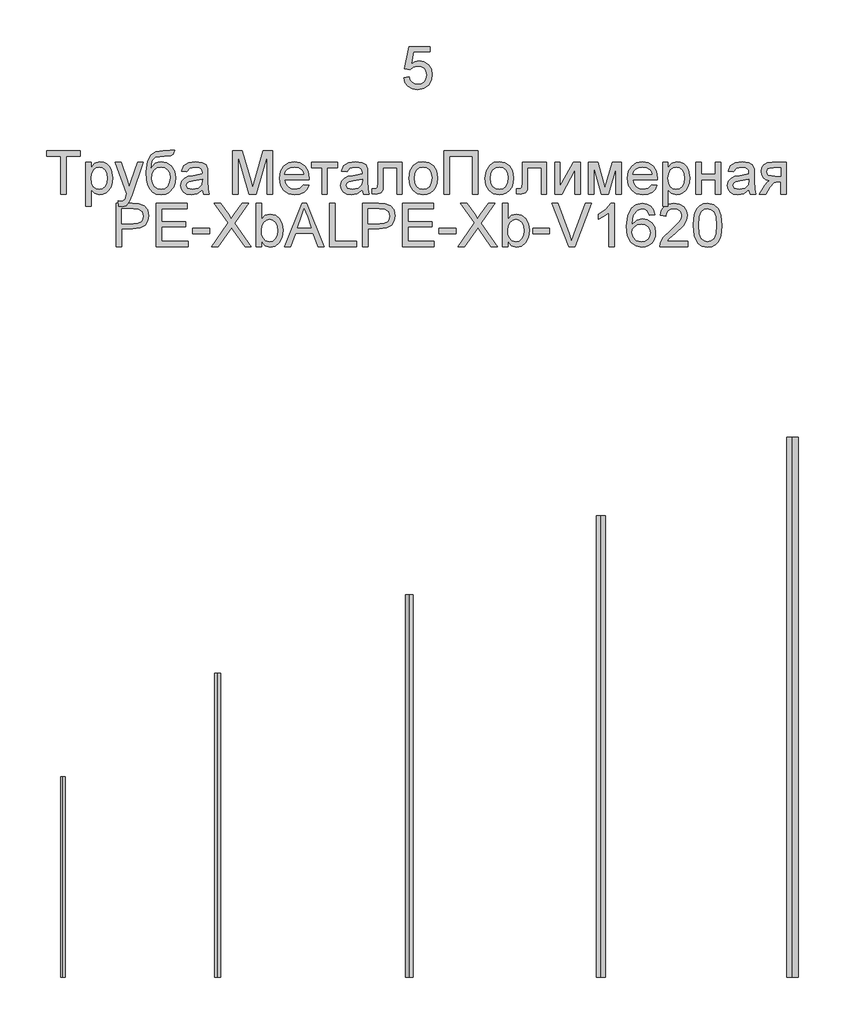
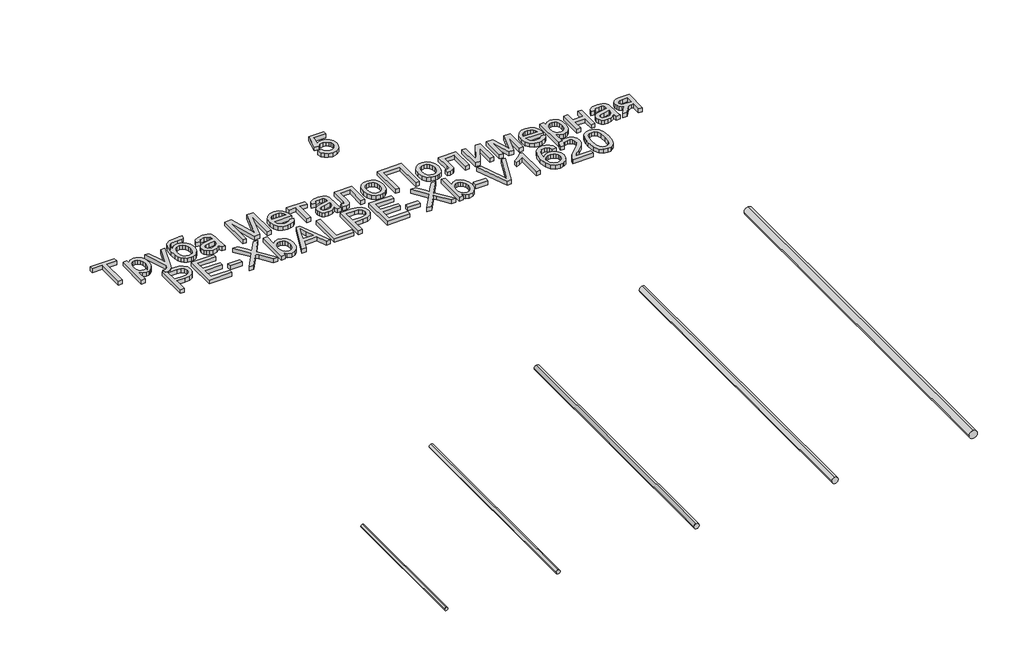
# One storey: 5 pipe segments, 1 proxy.
"""IFC4 building model written with IfcOpenShell, lengths in millimetres."""

from ifc_helpers import new_model, si_unit, point, frame, frame_2d, origin, origin_with_axes, place, context, project, spatial, polyline, circle_curve, trimmed, segment, composite_curve, outline, extrude, element, save

model = new_model("IFC4")

# Units and contexts
model_context = context("Model", 3, world=origin())
ifc_project = project(units=[si_unit("LENGTHUNIT", "METRE", prefix="MILLI")], contexts=[model_context])

# Site, building, storey
site = spatial("IfcSite", under=ifc_project)
building = spatial("IfcBuilding", under=site)
storey = spatial("IfcBuildingStorey", under=building, Name="Этаж 01", Elevation=0.0)

# Proxy
placement = place(None, origin())
element("IfcBuildingElementProxy", 1, Name="-", ObjectType="-", at=placement, inside=storey, context=model_context, shape_type="SweptSolid", body=[
    extrude(outline(polyline([(1130.7345209, 3137.5586063), (1149.570079, 3139.9130511), (1153.0281698, 3128.6052783), (1159.0614345, 3120.5072758), (1167.642282, 3115.6374379), (1178.7431212, 3114.0141586), (1192.2443905, 3116.2720344), (1202.3611453, 3123.0456616), (1208.6795186, 3133.5532911), (1210.785643, 3147.0131736), (1208.8128758, 3159.6867083), (1202.8945742, 3169.3803989), (1192.984753, 3175.5332253), (1179.0374268, 3177.5841674), (1162.5011311, 3174.3100176), (1151.9245238, 3165.8119436), (1133.0889656, 3168.1663883), (1149.570079, 3245.8630657), (1222.5578669, 3245.8630657), (1222.5578669, 3227.0275076), (1164.8003936, 3227.0275076), (1156.7437779, 3185.5304185), (1170.1990619, 3193.6973988), (1184.2981394, 3196.4197256), (1201.8966943, 3193.0444082), (1216.506208, 3182.9184563), (1226.3424529, 3167.4858066), (1229.6212012, 3148.190396), (1226.6689482, 3129.3548378), (1217.8121891, 3113.2416064), (1200.8528291, 3099.694352), (1178.6695448, 3095.1786005), (1160.169679, 3098.0802697), (1145.4314066, 3106.7852774), (1135.3284473, 3120.2819481), (1130.7345209, 3137.5586063)])), origin_with_axes(), (0.0, 0.0, 1.0), 20.0),
    extrude(outline(polyline([(-66.5006442, 2731.6085917), (-66.5006442, 2863.4574988), (-115.9439844, 2863.4574988), (-115.9439844, 2882.2930569), (1.7782541, 2882.2930569), (1.7782541, 2863.4574988), (-47.6650861, 2863.4574988), (-47.6650861, 2731.6085917), (-66.5006442, 2731.6085917)])), origin_with_axes(), (0.0, 0.0, 1.0), 20.0),
    extrude(outline(polyline([(20.6138122, 2689.2285859), (20.6138122, 2842.2674959), (39.4493704, 2842.2674959), (39.4493704, 2823.7998197), (52.472393, 2839.4164104), (70.0571524, 2844.6219406), (82.7950665, 2842.8009248), (93.9326939, 2837.3378771), (103.000985, 2828.5638915), (109.5308904, 2816.8100618), (114.791603, 2787.7841724), (113.3062794, 2771.6755395), (108.8503088, 2757.2683609), (101.5662453, 2745.2938019), (91.5966432, 2736.4830281), (79.9853677, 2731.0613672), (67.776284, 2729.2541469), (51.3871411, 2734.0917952), (39.4493704, 2746.3238715), (39.4493704, 2689.2285859), (20.6138122, 2689.2285859)]), holes=[polyline([(39.4493704, 2786.055127), (41.4865169, 2769.1693434), (47.5979566, 2757.3603314), (56.615664, 2750.4073617), (67.3716138, 2748.0897051), (78.3023076, 2750.4901351), (87.5499412, 2757.6914252), (93.8545189, 2769.9326986), (95.9560448, 2787.4530786), (93.9051027, 2804.2468917), (87.7522763, 2816.2214506), (78.7483645, 2823.3951495), (68.144166, 2825.7863825), (57.4985808, 2823.2433982), (48.1497796, 2815.6144453), (41.6244727, 2803.1386471), (39.4493704, 2786.055127)])]), origin_with_axes(), (0.0, 0.0, 1.0), 20.0),
    extrude(outline(polyline([(135.9816059, 2689.2285859), (133.6271611, 2707.3651682), (143.192093, 2705.7096993), (152.1316255, 2707.7882325), (157.6130672, 2713.5823739), (162.7634152, 2727.4515252), (164.2349431, 2732.0132619), (124.2093821, 2842.2674959), (144.0750098, 2842.2674959), (165.3018009, 2780.8312027), (172.696229, 2756.2566854), (180.0906571, 2777.9617231), (201.9060594, 2842.2674959), (221.6245344, 2842.2674959), (183.1072895, 2728.9598413), (173.1008992, 2704.3853241), (162.174804, 2691.104784), (147.4963124, 2686.8741411), (135.9816059, 2689.2285859)])), origin_with_axes(), (0.0, 0.0, 1.0), 20.0),
    extrude(outline(polyline([(314.9194084, 2884.6475017), (331.4005217, 2884.6475017), (326.5444794, 2869.950616), (316.9427593, 2864.6347212), (293.8765582, 2863.4574988), (262.8089237, 2859.1164912), (255.6812101, 2853.4695026), (250.8895471, 2845.2105518), (246.8612392, 2820.5992463), (263.1768057, 2838.6254641), (273.095824, 2843.1228215), (284.2012618, 2844.6219406), (303.8001751, 2840.8097635), (319.7018743, 2829.3732319), (330.2416935, 2811.4343861), (333.7549665, 2788.1152662), (332.0121256, 2770.1350337), (326.7836027, 2755.7048624), (310.247307, 2736.1519344), (298.9533298, 2730.9785938), (284.2012618, 2729.2541469), (267.2005151, 2731.4752345), (254.4580024, 2738.1384971), (245.0816101, 2748.264449), (238.1792242, 2760.8736044), (233.9301871, 2779.8609139), (232.5138414, 2809.1213281), (236.0868953, 2845.2611356), (246.806057, 2867.3018656), (264.9380408, 2878.5452591), (290.7495613, 2882.2930569), (311.718835, 2882.7161212), (314.9194084, 2884.6475017)]), holes=[polyline([(314.9194084, 2788.7038774), (312.8776633, 2803.5249232), (306.7524281, 2815.3937161), (296.9115847, 2823.1882159), (283.7230152, 2825.7863825), (269.9734256, 2823.0410631), (259.7738973, 2814.8051049), (253.455524, 2801.9798189), (251.3493996, 2785.4665158), (253.6762532, 2769.4590505), (260.6568141, 2757.7098193), (271.0494804, 2750.4947336), (283.6126506, 2748.0897051), (296.2402001, 2750.8718127), (306.2373933, 2759.2181355), (312.7489046, 2772.1537861), (314.9194084, 2788.7038774)])]), origin_with_axes(), (0.0, 0.0, 1.0), 20.0),
    extrude(outline(polyline([(427.9327573, 2745.7352603), (409.6674162, 2732.9697551), (389.4890888, 2729.2541469), (373.7483379, 2731.4890301), (362.1370624, 2738.1936794), (354.9771591, 2748.3748136), (352.5905247, 2761.0391513), (356.1957682, 2775.9383721), (365.6687296, 2786.7541028), (378.8572991, 2792.9345203), (395.1544715, 2795.7672117), (427.8223927, 2802.2419348), (427.9327573, 2806.4357895), (426.6359732, 2814.8418931), (422.7456211, 2820.3417289), (414.045212, 2824.4252191), (401.9235002, 2825.7863825), (382.8672129, 2822.1627448), (373.7805276, 2809.3052691), (354.9449694, 2811.6597139), (363.0935556, 2830.0538136), (379.5010926, 2840.8327561), (404.3515214, 2844.6219406), (427.1785992, 2841.2742145), (440.0728631, 2832.8681109), (445.8486104, 2820.0842116), (446.7683154, 2803.6030982), (446.7683154, 2780.1690151), (447.7248086, 2747.4459116), (451.477205, 2731.6085917), (432.6416468, 2731.6085917), (427.9327573, 2745.7352603)]), holes=[polyline([(427.9327573, 2783.4063766), (397.5457045, 2777.6306293), (381.3405026, 2774.5772087), (374.0012568, 2769.6108018), (371.4260828, 2762.3635265), (377.0362832, 2752.1731952), (393.4990025, 2748.0897051), (412.5552899, 2752.5962595), (424.8425485, 2763.5039607), (427.8223927, 2778.0720877), (427.9327573, 2783.4063766)])]), origin_with_axes(), (0.0, 0.0, 1.0), 20.0),
    extrude(outline(polyline([(533.8827719, 2731.6085917), (533.8827719, 2882.2930569), (566.2931757, 2882.2930569), (597.1216869, 2776.0855249), (603.3388926, 2753.9022406), (610.0711331, 2777.9249349), (640.3846095, 2882.2930569), (672.7950133, 2882.2930569), (672.7950133, 2731.6085917), (653.9594551, 2731.6085917), (653.9594551, 2863.4574988), (616.1043978, 2731.6085917), (590.5733873, 2731.6085917), (552.71833, 2863.4574988), (552.71833, 2731.6085917), (533.8827719, 2731.6085917)])), origin_with_axes(), (0.0, 0.0, 1.0), 20.0),
    extrude(outline(polyline([(780.8787434, 2764.5708185), (799.3464196, 2762.2163737), (792.692354, 2748.3012372), (782.0743599, 2737.8993738), (767.7315606, 2731.4154537), (749.9030795, 2729.2541469), (727.8025686, 2732.9835507), (710.7972234, 2744.1717618), (699.9539016, 2762.0922135), (696.339461, 2786.0183388), (699.9906898, 2810.7492059), (710.9443762, 2829.2444732), (727.7197951, 2840.7775738), (748.8362217, 2844.6219406), (769.2950591, 2840.7867708), (785.6428153, 2829.2812614), (796.3619769, 2810.8227823), (799.9350308, 2786.1287034), (799.8246662, 2781.0519319), (715.1750191, 2781.0519319), (718.4353733, 2766.9528544), (726.0091439, 2756.5877792), (736.9398376, 2750.2142236), (750.2709614, 2748.0897051), (768.7386376, 2752.0260424), (780.8787434, 2764.5708185)]), holes=[polyline([(715.1750191, 2799.88749), (781.0994726, 2799.88749), (778.5518898, 2809.838698), (773.5578917, 2816.9572146), (762.5766142, 2823.5790905), (748.7626453, 2825.7863825), (736.0661179, 2824.0251474), (725.5676855, 2818.7414423), (718.2698264, 2810.5054841), (715.1750191, 2799.88749)])]), origin_with_axes(), (0.0, 0.0, 1.0), 20.0),
    extrude(outline(polyline([(809.3528099, 2842.2674959), (898.8217111, 2842.2674959), (898.8217111, 2823.4319377), (863.5050396, 2823.4319377), (863.5050396, 2731.6085917), (844.6694814, 2731.6085917), (844.6694814, 2823.4319377), (809.3528099, 2823.4319377), (809.3528099, 2842.2674959)])), origin_with_axes(), (0.0, 0.0, 1.0), 20.0),
    extrude(outline(polyline([(985.9361676, 2745.7352603), (967.6708265, 2732.9697551), (947.4924991, 2729.2541469), (931.7517482, 2731.4890301), (920.1404727, 2738.1936794), (912.9805694, 2748.3748136), (910.5939349, 2761.0391513), (914.1991785, 2775.9383721), (923.6721399, 2786.7541028), (936.8607094, 2792.9345203), (953.1578818, 2795.7672117), (985.825803, 2802.2419348), (985.9361676, 2806.4357895), (984.6393835, 2814.8418931), (980.7490314, 2820.3417289), (972.0486222, 2824.4252191), (959.9269105, 2825.7863825), (940.8706232, 2822.1627448), (931.7839379, 2809.3052691), (912.9483797, 2811.6597139), (921.0969659, 2830.0538136), (937.5045029, 2840.8327561), (962.3549317, 2844.6219406), (985.1820095, 2841.2742145), (998.0762734, 2832.8681109), (1003.8520207, 2820.0842116), (1004.7717257, 2803.6030982), (1004.7717257, 2780.1690151), (1005.7282189, 2747.4459116), (1009.4806153, 2731.6085917), (990.6450571, 2731.6085917), (985.9361676, 2745.7352603)]), holes=[polyline([(985.9361676, 2783.4063766), (955.5491148, 2777.6306293), (939.3439129, 2774.5772087), (932.0046671, 2769.6108018), (929.4294931, 2762.3635265), (935.0396935, 2752.1731952), (951.5024128, 2748.0897051), (970.5587002, 2752.5962595), (982.8459588, 2763.5039607), (985.825803, 2778.0720877), (985.9361676, 2783.4063766)])]), origin_with_axes(), (0.0, 0.0, 1.0), 20.0),
    extrude(outline(polyline([(1040.0883972, 2842.2674959), (1124.8484089, 2842.2674959), (1124.8484089, 2731.7189563), (1106.0128508, 2731.7189563), (1106.0128508, 2823.4319377), (1058.9239554, 2823.4319377), (1058.9239554, 2770.6408714), (1057.6547625, 2746.2870833), (1050.6833987, 2736.0047816), (1034.2022853, 2731.6085917), (1018.8983943, 2732.5650849), (1018.8983943, 2750.4441499), (1027.322892, 2750.4441499), (1035.8393602, 2751.6029782), (1039.2422687, 2755.2817981), (1040.0883972, 2771.7077292), (1040.0883972, 2842.2674959)])), origin_with_axes(), (0.0, 0.0, 1.0), 20.0),
    extrude(outline(polyline([(1148.3928566, 2786.9380438), (1152.4671497, 2813.6186855), (1164.690029, 2832.3714702), (1179.7915849, 2841.559323), (1197.872985, 2844.6219406), (1217.6604378, 2840.8925369), (1233.465568, 2829.7043257), (1243.8260447, 2811.9402239), (1247.2795369, 2788.4831482), (1245.7528267, 2769.454452), (1241.1726958, 2754.9690984), (1233.6725016, 2744.1211781), (1223.3856013, 2736.0047816), (1211.1673206, 2730.9418056), (1197.872985, 2729.2541469), (1177.8464089, 2732.9697551), (1162.0596728, 2744.1165795), (1151.8095607, 2762.2531619), (1148.3928566, 2786.9380438)]), holes=[polyline([(1167.2284148, 2786.974832), (1169.4081156, 2769.9281), (1175.9472181, 2757.7833957), (1185.7880614, 2750.5131277), (1197.872985, 2748.0897051), (1209.9027262, 2750.5269233), (1219.7251755, 2757.838578), (1226.264278, 2770.1442307), (1228.4439788, 2787.5634432), (1226.2504824, 2804.1135344), (1219.6699932, 2816.0926919), (1209.8337483, 2823.3629598), (1197.872985, 2825.7863825), (1185.7880614, 2823.3721569), (1175.9472181, 2816.1294801), (1169.4081156, 2804.0123669), (1167.2284148, 2786.974832)])]), origin_with_axes(), (0.0, 0.0, 1.0), 20.0),
    extrude(outline(polyline([(1270.8239846, 2882.2930569), (1388.5462231, 2882.2930569), (1388.5462231, 2731.6085917), (1369.7106649, 2731.6085917), (1369.7106649, 2863.4574988), (1289.6595428, 2863.4574988), (1289.6595428, 2731.6085917), (1270.8239846, 2731.6085917), (1270.8239846, 2882.2930569)])), origin_with_axes(), (0.0, 0.0, 1.0), 20.0),
    extrude(outline(polyline([(1414.4451155, 2786.9380438), (1418.5194086, 2813.6186855), (1430.7422879, 2832.3714702), (1445.8438438, 2841.559323), (1463.9252439, 2844.6219406), (1483.7126967, 2840.8925369), (1499.5178269, 2829.7043257), (1509.8783036, 2811.9402239), (1513.3317958, 2788.4831482), (1511.8050856, 2769.454452), (1507.2249547, 2754.9690984), (1499.7247605, 2744.1211781), (1489.4378603, 2736.0047816), (1477.2195795, 2730.9418056), (1463.9252439, 2729.2541469), (1443.8986678, 2732.9697551), (1428.1119317, 2744.1165795), (1417.8618196, 2762.2531619), (1414.4451155, 2786.9380438)]), holes=[polyline([(1433.2806737, 2786.974832), (1435.4603745, 2769.9281), (1441.999477, 2757.7833957), (1451.8403204, 2750.5131277), (1463.9252439, 2748.0897051), (1475.9549851, 2750.5269233), (1485.7774344, 2757.838578), (1492.3165369, 2770.1442307), (1494.4962377, 2787.5634432), (1492.3027413, 2804.1135344), (1485.7222521, 2816.0926919), (1475.8860073, 2823.3629598), (1463.9252439, 2825.7863825), (1451.8403204, 2823.3721569), (1441.999477, 2816.1294801), (1435.4603745, 2804.0123669), (1433.2806737, 2786.974832)])]), origin_with_axes(), (0.0, 0.0, 1.0), 20.0),
    extrude(outline(polyline([(1543.9395778, 2842.2674959), (1628.6995895, 2842.2674959), (1628.6995895, 2731.7189563), (1609.8640314, 2731.7189563), (1609.8640314, 2823.4319377), (1562.775136, 2823.4319377), (1562.775136, 2770.6408714), (1561.5059431, 2746.2870833), (1554.5345793, 2736.0047816), (1538.0534659, 2731.6085917), (1522.7495749, 2732.5650849), (1522.7495749, 2750.4441499), (1531.1740726, 2750.4441499), (1539.6905408, 2751.6029782), (1543.0934493, 2755.2817981), (1543.9395778, 2771.7077292), (1543.9395778, 2842.2674959)])), origin_with_axes(), (0.0, 0.0, 1.0), 20.0),
    extrude(outline(polyline([(1656.9529268, 2842.2674959), (1675.7884849, 2842.2674959), (1675.7884849, 2757.8753662), (1722.0680399, 2842.2674959), (1746.421828, 2842.2674959), (1746.421828, 2731.6085917), (1727.5862698, 2731.6085917), (1727.5862698, 2815.4856866), (1681.6010204, 2731.6085917), (1656.9529268, 2731.6085917), (1656.9529268, 2842.2674959)])), origin_with_axes(), (0.0, 0.0, 1.0), 20.0),
    extrude(outline(polyline([(1774.6751652, 2842.2674959), (1807.085569, 2842.2674959), (1832.0647565, 2753.6815114), (1858.9937185, 2842.2674959), (1890.0429589, 2842.2674959), (1890.0429589, 2731.6085917), (1871.2074008, 2731.6085917), (1871.2074008, 2820.7096109), (1844.1312859, 2731.6085917), (1819.4096158, 2731.6085917), (1793.5107234, 2824.9770421), (1793.5107234, 2731.6085917), (1774.6751652, 2731.6085917), (1774.6751652, 2842.2674959)])), origin_with_axes(), (0.0, 0.0, 1.0), 20.0),
    extrude(outline(polyline([(1995.7722443, 2764.5708185), (2014.2399205, 2762.2163737), (2007.5858549, 2748.3012372), (1996.9678608, 2737.8993738), (1982.6250615, 2731.4154537), (1964.7965803, 2729.2541469), (1942.6960695, 2732.9835507), (1925.6907242, 2744.1717618), (1914.8474024, 2762.0922135), (1911.2329618, 2786.0183388), (1914.8841906, 2810.7492059), (1925.837877, 2829.2444732), (1942.613296, 2840.7775738), (1963.7297225, 2844.6219406), (1984.18856, 2840.7867708), (2000.5363162, 2829.2812614), (2011.2554778, 2810.8227823), (2014.8285317, 2786.1287034), (2014.7181671, 2781.0519319), (1930.06852, 2781.0519319), (1933.3288742, 2766.9528544), (1940.9026447, 2756.5877792), (1951.8333385, 2750.2142236), (1965.1644623, 2748.0897051), (1983.6321385, 2752.0260424), (1995.7722443, 2764.5708185)]), holes=[polyline([(1930.06852, 2799.88749), (1995.9929735, 2799.88749), (1993.4453907, 2809.838698), (1988.4513926, 2816.9572146), (1977.4701151, 2823.5790905), (1963.6561461, 2825.7863825), (1950.9596188, 2824.0251474), (1940.4611863, 2818.7414423), (1933.1633273, 2810.5054841), (1930.06852, 2799.88749)])]), origin_with_axes(), (0.0, 0.0, 1.0), 20.0),
    extrude(outline(polyline([(2033.6640898, 2689.2285859), (2033.6640898, 2842.2674959), (2052.499648, 2842.2674959), (2052.499648, 2823.7998197), (2065.5226706, 2839.4164104), (2083.10743, 2844.6219406), (2095.8453441, 2842.8009248), (2106.9829715, 2837.3378771), (2116.0512626, 2828.5638915), (2122.5811681, 2816.8100618), (2127.8418806, 2787.7841724), (2126.356557, 2771.6755395), (2121.9005864, 2757.2683609), (2114.6165229, 2745.2938019), (2104.6469208, 2736.4830281), (2093.0356453, 2731.0613672), (2080.8265616, 2729.2541469), (2064.4374187, 2734.0917952), (2052.499648, 2746.3238715), (2052.499648, 2689.2285859), (2033.6640898, 2689.2285859)]), holes=[polyline([(2052.499648, 2786.055127), (2054.5367945, 2769.1693434), (2060.6482342, 2757.3603314), (2069.6659416, 2750.4073617), (2080.4218914, 2748.0897051), (2091.3525852, 2750.4901351), (2100.6002188, 2757.6914252), (2106.9047965, 2769.9326986), (2109.0063224, 2787.4530786), (2106.9553803, 2804.2468917), (2100.8025539, 2816.2214506), (2091.7986421, 2823.3951495), (2081.1944436, 2825.7863825), (2070.5488584, 2823.2433982), (2061.2000572, 2815.6144453), (2054.6747503, 2803.1386471), (2052.499648, 2786.055127)])]), origin_with_axes(), (0.0, 0.0, 1.0), 20.0),
    extrude(outline(polyline([(2149.0318835, 2842.2674959), (2167.8674417, 2842.2674959), (2167.8674417, 2799.88749), (2217.3107818, 2799.88749), (2217.3107818, 2842.2674959), (2236.14634, 2842.2674959), (2236.14634, 2731.6085917), (2217.3107818, 2731.6085917), (2217.3107818, 2781.0519319), (2167.8674417, 2781.0519319), (2167.8674417, 2731.6085917), (2149.0318835, 2731.6085917), (2149.0318835, 2842.2674959)])), origin_with_axes(), (0.0, 0.0, 1.0), 20.0),
    extrude(outline(polyline([(2335.0330203, 2745.7352603), (2316.7676792, 2732.9697551), (2296.5893518, 2729.2541469), (2280.8486009, 2731.4890301), (2269.2373254, 2738.1936794), (2262.0774221, 2748.3748136), (2259.6907877, 2761.0391513), (2263.2960312, 2775.9383721), (2272.7689926, 2786.7541028), (2285.9575621, 2792.9345203), (2302.2547345, 2795.7672117), (2334.9226557, 2802.2419348), (2335.0330203, 2806.4357895), (2333.7362362, 2814.8418931), (2329.8458841, 2820.3417289), (2321.145475, 2824.4252191), (2309.0237632, 2825.7863825), (2289.9674759, 2822.1627448), (2280.8807906, 2809.3052691), (2262.0452324, 2811.6597139), (2270.1938186, 2830.0538136), (2286.6013556, 2840.8327561), (2311.4517844, 2844.6219406), (2334.2788622, 2841.2742145), (2347.1731261, 2832.8681109), (2352.9488734, 2820.0842116), (2353.8685784, 2803.6030982), (2353.8685784, 2780.1690151), (2354.8250716, 2747.4459116), (2358.577468, 2731.6085917), (2339.7419098, 2731.6085917), (2335.0330203, 2745.7352603)]), holes=[polyline([(2335.0330203, 2783.4063766), (2304.6459675, 2777.6306293), (2288.4407656, 2774.5772087), (2281.1015198, 2769.6108018), (2278.5263458, 2762.3635265), (2284.1365462, 2752.1731952), (2300.5992655, 2748.0897051), (2319.6555529, 2752.5962595), (2331.9428115, 2763.5039607), (2334.9226557, 2778.0720877), (2335.0330203, 2783.4063766)])]), origin_with_axes(), (0.0, 0.0, 1.0), 20.0),
    extrude(outline(polyline([(2464.5274826, 2842.2674959), (2464.5274826, 2731.6085917), (2445.6919244, 2731.6085917), (2445.6919244, 2773.9885976), (2435.4280168, 2773.9885976), (2421.4485009, 2771.5973646), (2408.3151137, 2755.5209214), (2393.3055283, 2731.6085917), (2371.5269142, 2731.6085917), (2390.4360487, 2761.8484917), (2398.78697, 2772.7010106), (2406.4757037, 2777.5202647), (2393.5998339, 2781.4657991), (2384.5499368, 2788.9613948), (2379.1972538, 2798.9309968), (2377.4130261, 2810.2985505), (2379.8502443, 2823.1928144), (2387.161899, 2833.4015398), (2399.0904727, 2840.0510068), (2415.378448, 2842.2674959), (2464.5274826, 2842.2674959)]), holes=[polyline([(2445.6919244, 2823.4319377), (2420.8598897, 2823.4319377), (2408.0346037, 2822.3420873), (2400.7551387, 2819.0725361), (2396.2485843, 2808.8638107), (2397.9086518, 2801.6855133), (2402.8888543, 2796.7053108), (2426.4149079, 2792.8241557), (2445.6919244, 2792.8241557), (2445.6919244, 2823.4319377)])]), origin_with_axes(), (0.0, 0.0, 1.0), 20.0),
    extrude(outline(polyline([(127.7410492, 2548.6463649), (127.7410492, 2699.3308302), (183.5855361, 2699.3308302), (206.0999142, 2697.8960904), (224.4020434, 2690.8511502), (236.2662378, 2676.2830232), (240.7543981, 2655.7368137), (237.7239702, 2637.9773104), (228.6326864, 2623.1792572), (211.6319397, 2613.191261), (184.8731231, 2609.8619289), (146.5766074, 2609.8619289), (146.5766074, 2548.6463649), (127.7410492, 2548.6463649)]), holes=[polyline([(146.5766074, 2628.6974871), (185.976769, 2628.6974871), (202.6786116, 2630.4265325), (213.7150715, 2635.6136686), (219.8678979, 2643.9369987), (221.91884, 2655.0746261), (217.0811917, 2670.6728227), (204.3708688, 2679.207685), (185.5353107, 2680.495272), (146.5766074, 2680.495272), (146.5766074, 2628.6974871)])]), origin_with_axes(), (0.0, 0.0, 1.0), 20.0),
    extrude(outline(polyline([(266.6532906, 2548.6463649), (266.6532906, 2699.3308302), (374.95775, 2699.3308302), (374.95775, 2680.495272), (285.4888487, 2680.495272), (285.4888487, 2635.7608214), (370.2488604, 2635.7608214), (370.2488604, 2616.9252632), (285.4888487, 2616.9252632), (285.4888487, 2567.4819231), (377.3121947, 2567.4819231), (377.3121947, 2548.6463649), (266.6532906, 2548.6463649)])), origin_with_axes(), (0.0, 0.0, 1.0), 20.0),
    extrude(outline(polyline([(393.7933081, 2593.3808156), (393.7933081, 2612.2163737), (452.6544274, 2612.2163737), (452.6544274, 2593.3808156), (393.7933081, 2593.3808156)])), origin_with_axes(), (0.0, 0.0, 1.0), 20.0),
    extrude(outline(polyline([(459.7177617, 2548.6463649), (517.8063287, 2630.7576263), (469.1355407, 2699.3308302), (491.7234952, 2699.3308302), (519.1307039, 2660.7400089), (528.364542, 2645.6936353), (539.1802726, 2660.9975263), (566.2931757, 2699.3308302), (589.212224, 2699.3308302), (540.541436, 2630.5368971), (598.630003, 2548.6463649), (576.0420485, 2548.6463649), (537.3408626, 2603.240053), (529.2842469, 2614.5708185), (520.4182909, 2602.136407), (482.63681, 2548.6463649), (459.7177617, 2548.6463649)])), origin_with_axes(), (0.0, 0.0, 1.0), 20.0),
    extrude(outline(polyline([(633.9466746, 2548.6463649), (615.1111164, 2548.6463649), (615.1111164, 2699.3308302), (633.9466746, 2699.3308302), (633.9466746, 2643.4495551), (647.1352441, 2657.1071742), (663.524387, 2661.6597139), (682.3967333, 2657.5578296), (697.0384367, 2646.0247291), (706.0331515, 2628.0904818), (709.2889072, 2605.631286), (705.9181884, 2580.4865516), (695.8060321, 2561.7797522), (680.9665921, 2550.1638782), (663.4140224, 2546.2919202), (646.6661946, 2551.2859183), (633.9466746, 2566.2679125), (633.9466746, 2548.6463649)]), holes=[polyline([(633.9466746, 2604.7483692), (635.2342616, 2589.039808), (639.0970225, 2578.4080184), (648.965457, 2568.4476133), (661.7953416, 2565.1274783), (672.6662546, 2567.5738936), (681.9552749, 2574.9131394), (688.3288305, 2587.0992305), (690.453349, 2604.0861816), (688.4162025, 2621.3214531), (682.3047628, 2633.3695884), (673.3054495, 2640.4605139), (662.604682, 2642.8241557), (651.733769, 2640.3777404), (642.4447487, 2633.0384946), (636.0711931, 2621.0731327), (633.9466746, 2604.7483692)])]), origin_with_axes(), (0.0, 0.0, 1.0), 20.0),
    extrude(outline(polyline([(715.2853837, 2548.6463649), (775.4340899, 2699.3308302), (791.4737449, 2699.3308302), (851.6224511, 2548.6463649), (831.7200352, 2548.6463649), (814.4663696, 2595.7352603), (752.404677, 2595.7352603), (735.1877996, 2548.6463649), (715.2853837, 2548.6463649)]), holes=[polyline([(759.3208585, 2614.5708185), (807.5869763, 2614.5708185), (794.0121307, 2651.6165354), (783.4539174, 2680.495272), (774.0729265, 2654.853897), (759.3208585, 2614.5708185)])]), origin_with_axes(), (0.0, 0.0, 1.0), 20.0),
    extrude(outline(polyline([(871.7455963, 2548.6463649), (871.7455963, 2699.3308302), (890.5811544, 2699.3308302), (890.5811544, 2567.4819231), (965.923387, 2567.4819231), (965.923387, 2548.6463649), (871.7455963, 2548.6463649)])), origin_with_axes(), (0.0, 0.0, 1.0), 20.0),
    extrude(outline(polyline([(987.1133899, 2548.6463649), (987.1133899, 2699.3308302), (1042.9578768, 2699.3308302), (1065.4722549, 2697.8960904), (1083.7743842, 2690.8511502), (1095.6385785, 2676.2830232), (1100.1267389, 2655.7368137), (1097.0963109, 2637.9773104), (1088.0050271, 2623.1792572), (1071.0042804, 2613.191261), (1044.2454638, 2609.8619289), (1005.9489481, 2609.8619289), (1005.9489481, 2548.6463649), (987.1133899, 2548.6463649)]), holes=[polyline([(1005.9489481, 2628.6974871), (1045.3491098, 2628.6974871), (1062.0509524, 2630.4265325), (1073.0874122, 2635.6136686), (1079.2402386, 2643.9369987), (1081.2911807, 2655.0746261), (1076.4535325, 2670.6728227), (1063.7432095, 2679.207685), (1044.9076514, 2680.495272), (1005.9489481, 2680.495272), (1005.9489481, 2628.6974871)])]), origin_with_axes(), (0.0, 0.0, 1.0), 20.0),
    extrude(outline(polyline([(1126.0256313, 2548.6463649), (1126.0256313, 2699.3308302), (1234.3300907, 2699.3308302), (1234.3300907, 2680.495272), (1144.8611895, 2680.495272), (1144.8611895, 2635.7608214), (1229.6212012, 2635.7608214), (1229.6212012, 2616.9252632), (1144.8611895, 2616.9252632), (1144.8611895, 2567.4819231), (1236.6845355, 2567.4819231), (1236.6845355, 2548.6463649), (1126.0256313, 2548.6463649)])), origin_with_axes(), (0.0, 0.0, 1.0), 20.0),
    extrude(outline(polyline([(1253.1656489, 2593.3808156), (1253.1656489, 2612.2163737), (1312.0267681, 2612.2163737), (1312.0267681, 2593.3808156), (1253.1656489, 2593.3808156)])), origin_with_axes(), (0.0, 0.0, 1.0), 20.0),
    extrude(outline(polyline([(1319.0901024, 2548.6463649), (1377.1786694, 2630.7576263), (1328.5078815, 2699.3308302), (1351.095836, 2699.3308302), (1378.5030446, 2660.7400089), (1387.7368827, 2645.6936353), (1398.5526133, 2660.9975263), (1425.6655164, 2699.3308302), (1448.5845647, 2699.3308302), (1399.9137767, 2630.5368971), (1458.0023438, 2548.6463649), (1435.4143893, 2548.6463649), (1396.7132034, 2603.240053), (1388.6565877, 2614.5708185), (1379.7906316, 2602.136407), (1342.0091507, 2548.6463649), (1319.0901024, 2548.6463649)])), origin_with_axes(), (0.0, 0.0, 1.0), 20.0),
    extrude(outline(polyline([(1493.3190153, 2548.6463649), (1474.4834572, 2548.6463649), (1474.4834572, 2699.3308302), (1493.3190153, 2699.3308302), (1493.3190153, 2643.4495551), (1506.5075848, 2657.1071742), (1522.8967277, 2661.6597139), (1541.7690741, 2657.5578296), (1556.4107775, 2646.0247291), (1565.4054923, 2628.0904818), (1568.6612479, 2605.631286), (1565.2905291, 2580.4865516), (1555.1783728, 2561.7797522), (1540.3389328, 2550.1638782), (1522.7863631, 2546.2919202), (1506.0385353, 2551.2859183), (1493.3190153, 2566.2679125), (1493.3190153, 2548.6463649)]), holes=[polyline([(1493.3190153, 2604.7483692), (1494.6066023, 2589.039808), (1498.4693632, 2578.4080184), (1508.3377978, 2568.4476133), (1521.1676823, 2565.1274783), (1532.0385953, 2567.5738936), (1541.3276157, 2574.9131394), (1547.7011712, 2587.0992305), (1549.8256898, 2604.0861816), (1547.7885432, 2621.3214531), (1541.6771036, 2633.3695884), (1532.6777903, 2640.4605139), (1521.9770227, 2642.8241557), (1511.1061098, 2640.3777404), (1501.8170894, 2633.0384946), (1495.4435338, 2621.0731327), (1493.3190153, 2604.7483692)])]), origin_with_axes(), (0.0, 0.0, 1.0), 20.0),
    extrude(outline(polyline([(1580.4334718, 2593.3808156), (1580.4334718, 2612.2163737), (1639.294591, 2612.2163737), (1639.294591, 2593.3808156), (1580.4334718, 2593.3808156)])), origin_with_axes(), (0.0, 0.0, 1.0), 20.0),
    extrude(outline(polyline([(1707.3527601, 2548.6463649), (1647.3879949, 2699.3308302), (1667.5479282, 2699.3308302), (1707.6838539, 2590.7688534), (1715.814046, 2566.3047007), (1723.8338735, 2590.7688534), (1764.0801638, 2699.3308302), (1784.2400971, 2699.3308302), (1726.8137176, 2548.6463649), (1707.3527601, 2548.6463649)])), origin_with_axes(), (0.0, 0.0, 1.0), 20.0),
    extrude(outline(polyline([(1865.3212888, 2548.6463649), (1846.4857307, 2548.6463649), (1846.4857307, 2666.0742978), (1828.6434539, 2653.3639749), (1808.8146144, 2643.8542253), (1808.8146144, 2661.6597139), (1836.4241581, 2679.2812614), (1853.181183, 2699.3308302), (1865.3212888, 2699.3308302), (1865.3212888, 2548.6463649)])), origin_with_axes(), (0.0, 0.0, 1.0), 20.0),
    extrude(outline(polyline([(2006.587975, 2659.3052691), (1987.7524168, 2656.9508243), (1980.6155061, 2672.6593855), (1972.0714468, 2678.5363004), (1961.7431598, 2680.495272), (1944.7470116, 2675.9335353), (1931.8895359, 2658.8086284), (1927.9853882, 2644.7785288), (1926.5368528, 2625.2393963), (1943.1467249, 2640.2673758), (1963.7297225, 2645.1786005), (1981.1305409, 2641.8216773), (1995.7354561, 2631.7509077), (2005.6406788, 2616.3642432), (2008.9424197, 2597.0596355), (2007.3881183, 2583.5721619), (2002.725214, 2571.0687726), (1995.339983, 2560.464574), (1985.6187013, 2552.6746728), (1974.0028273, 2547.8876083), (1960.9338194, 2546.2919202), (1939.564474, 2550.5225631), (1922.5453332, 2563.214492), (1911.4123043, 2585.6185055), (1907.7012947, 2618.9854024), (1911.821573, 2656.5001689), (1924.1824081, 2682.150741), (1941.0589946, 2695.0358079), (1962.9203822, 2699.3308302), (1979.4474808, 2696.6728828), (1992.6820356, 2688.6990405), (2001.9526618, 2676.0347028), (2006.587975, 2659.3052691)]), holes=[polyline([(1926.5368528, 2597.3539411), (1930.8962545, 2581.0383746), (1942.4845373, 2569.1925744), (1959.4622914, 2565.1274783), (1971.8921043, 2567.2336028), (1981.6639698, 2573.551976), (1987.9961386, 2583.4847899), (1990.1068616, 2596.4342361), (1988.0237298, 2608.864049), (1981.7743344, 2618.3416089), (1971.836922, 2624.342684), (1958.6897392, 2626.3430423), (1946.2783204, 2624.342684), (1935.8994496, 2618.3416089), (1928.877502, 2609.0939753), (1926.5368528, 2597.3539411)])]), origin_with_axes(), (0.0, 0.0, 1.0), 20.0),
    extrude(outline(polyline([(2121.9557687, 2567.4819231), (2121.9557687, 2548.6463649), (2023.0690884, 2548.6463649), (2025.0924393, 2561.6325994), (2036.5335694, 2581.6269858), (2060.1148053, 2603.4607822), (2092.6355736, 2634.8411164), (2098.7332177, 2645.6568471), (2100.7657657, 2656.1782721), (2098.8481808, 2665.6098468), (2093.0954261, 2673.4503318), (2084.2524627, 2678.734037), (2073.0642515, 2680.495272), (2061.3150203, 2678.7754237), (2052.1869483, 2673.6158787), (2046.2962378, 2665.4213073), (2044.2590913, 2654.5963796), (2025.4235331, 2656.9508243), (2029.9898684, 2675.1701801), (2039.8629014, 2688.4783113), (2054.5275975, 2696.6177005), (2073.4689217, 2699.3308302), (2092.5482017, 2696.3141978), (2107.1853066, 2687.2643007), (2116.4973196, 2673.7446374), (2119.6013239, 2657.3187063), (2116.2535977, 2639.4580355), (2105.1251674, 2620.9903593), (2078.141023, 2595.1834373), (2056.4727735, 2577.0652491), (2047.9746994, 2567.4819231), (2121.9557687, 2567.4819231)])), origin_with_axes(), (0.0, 0.0, 1.0), 20.0),
    extrude(outline(polyline([(2140.7913268, 2622.774587), (2142.1754828, 2646.8938503), (2146.3279508, 2666.1294801), (2153.2073442, 2680.775782), (2162.772276, 2691.1270617), (2175.0917243, 2697.279888), (2190.234667, 2699.3308302), (2212.2340103, 2694.4747878), (2227.4275367, 2680.4768779), (2236.2567046, 2658.183229), (2239.6780071, 2622.774587), (2238.3076467, 2598.7932794), (2234.1965654, 2579.6036348), (2227.3585588, 2564.9435373), (2217.8074225, 2554.550871), (2205.460383, 2548.3566579), (2190.234667, 2546.2919202), (2170.6633448, 2549.8787696), (2155.8009122, 2560.639318), (2144.5437232, 2586.1243432), (2140.7913268, 2622.774587)]), holes=[polyline([(2159.626885, 2622.8113752), (2161.8341769, 2593.183079), (2168.4560529, 2576.0351795), (2178.3152903, 2567.8544036), (2190.234667, 2565.1274783), (2202.1540436, 2567.8636007), (2212.0132811, 2576.0719677), (2218.635157, 2593.2290642), (2220.842449, 2622.8113752), (2218.7087334, 2651.7728852), (2212.3075867, 2669.054142), (2202.4667433, 2677.6349895), (2190.0139378, 2680.495272), (2178.2233198, 2677.9752803), (2168.7503585, 2670.4153053), (2161.9077533, 2652.0579938), (2159.626885, 2622.8113752)])]), origin_with_axes(), (0.0, 0.0, 1.0), 20.0),
])

# Pipe segments
element("IfcPipeSegment", 2, ObjectType="VALTEC_PE-XbALPE-Xb-V1620_МеталоПолимер", at=placement, inside=storey, context=model_context, shape_type="SweptSolid", body=[
    extrude(outline(composite_curve([segment(trimmed(circle_curve(frame_2d((0.0, 480.8922638)), 10.0), [point((0.0, 490.8922638))], [point((10.0, 480.8922638))], False, "CARTESIAN"), True, "CONTINUOUS"), segment(trimmed(circle_curve(frame_2d((0.0, 480.8922638)), 10.0), [point((10.0, 480.8922638))], [point((0.0, 470.8922638))], False, "CARTESIAN"), True, "CONTINUOUS"), segment(trimmed(circle_curve(frame_2d((0.0, 480.8922638)), 10.0), [point((0.0, 470.8922638))], [point((-10.0, 480.8922638))], False, "CARTESIAN"), True, "CONTINUOUS"), segment(trimmed(circle_curve(frame_2d((0.0, 480.8922638)), 10.0), [point((-10.0, 480.8922638))], [point((0.0, 490.8922638))], False, "CARTESIAN"), True, "CONTINUOUS")], self_intersect=False)), frame((0.0, 0.0, 0.0), z_axis=(0.0, 1.0, 0.0), x_axis=(0.0, 0.0, 1.0)), (0.0, 0.0, 1.0), 1060.0),
])
element("IfcPipeSegment", 3, ObjectType="VALTEC_PE-XbALPE-Xb-V1620_МеталоПолимер", at=placement, inside=storey, context=model_context, shape_type="SweptSolid", body=[
    extrude(outline(composite_curve([segment(trimmed(circle_curve(frame_2d((0.0, 1149.4636924)), 13.0), [point((0.0, 1136.4636924))], [point((-13.0, 1149.4636924))], False, "CARTESIAN"), True, "CONTINUOUS"), segment(trimmed(circle_curve(frame_2d((0.0, 1149.4636924)), 13.0), [point((-13.0, 1149.4636924))], [point((0.0, 1162.4636924))], False, "CARTESIAN"), True, "CONTINUOUS"), segment(trimmed(circle_curve(frame_2d((0.0, 1149.4636924)), 13.0), [point((0.0, 1162.4636924))], [point((13.0, 1149.4636924))], False, "CARTESIAN"), True, "CONTINUOUS"), segment(trimmed(circle_curve(frame_2d((0.0, 1149.4636924)), 13.0), [point((13.0, 1149.4636924))], [point((0.0, 1136.4636924))], False, "CARTESIAN"), True, "CONTINUOUS")], self_intersect=False)), frame((0.0, 0.0, 0.0), z_axis=(0.0, 1.0, 0.0), x_axis=(0.0, 0.0, 1.0)), (0.0, 0.0, 1.0), 1334.5034014),
])
element("IfcPipeSegment", 4, ObjectType="VALTEC_PE-XbALPE-Xb-V1620_МеталоПолимер", at=placement, inside=storey, context=model_context, shape_type="SweptSolid", body=[
    extrude(outline(composite_curve([segment(trimmed(circle_curve(frame_2d((0.0, 1818.0351209)), 16.0), [point((0.0, 1834.0351209))], [point((16.0, 1818.0351209))], False, "CARTESIAN"), True, "CONTINUOUS"), segment(trimmed(circle_curve(frame_2d((0.0, 1818.0351209)), 16.0), [point((16.0, 1818.0351209))], [point((0.0, 1802.0351209))], False, "CARTESIAN"), True, "CONTINUOUS"), segment(trimmed(circle_curve(frame_2d((0.0, 1818.0351209)), 16.0), [point((0.0, 1802.0351209))], [point((-16.0, 1818.0351209))], False, "CARTESIAN"), True, "CONTINUOUS"), segment(trimmed(circle_curve(frame_2d((0.0, 1818.0351209)), 16.0), [point((-16.0, 1818.0351209))], [point((0.0, 1834.0351209))], False, "CARTESIAN"), True, "CONTINUOUS")], self_intersect=False)), frame((0.0, 0.0, 0.0), z_axis=(0.0, 1.0, 0.0), x_axis=(0.0, 0.0, 1.0)), (0.0, 0.0, 1.0), 1609.0068027),
])
element("IfcPipeSegment", 5, ObjectType="VALTEC_PE-XbALPE-Xb-V1620_МеталоПолимер", at=placement, inside=storey, context=model_context, shape_type="SweptSolid", body=[
    extrude(outline(composite_curve([segment(trimmed(circle_curve(frame_2d((0.0, 2486.6065495)), 20.0), [point((0.0, 2506.6065495))], [point((20.0, 2486.6065495))], False, "CARTESIAN"), True, "CONTINUOUS"), segment(trimmed(circle_curve(frame_2d((0.0, 2486.6065495)), 20.0), [point((20.0, 2486.6065495))], [point((0.0, 2466.6065495))], False, "CARTESIAN"), True, "CONTINUOUS"), segment(trimmed(circle_curve(frame_2d((0.0, 2486.6065495)), 20.0), [point((0.0, 2466.6065495))], [point((-20.0, 2486.6065495))], False, "CARTESIAN"), True, "CONTINUOUS"), segment(trimmed(circle_curve(frame_2d((0.0, 2486.6065495)), 20.0), [point((-20.0, 2486.6065495))], [point((0.0, 2506.6065495))], False, "CARTESIAN"), True, "CONTINUOUS")], self_intersect=False)), frame((0.0, 0.0, 0.0), z_axis=(0.0, 1.0, 0.0), x_axis=(0.0, 0.0, 1.0)), (0.0, 0.0, 1.0), 1883.5102041),
])
element("IfcPipeSegment", 6, ObjectType="VALTEC_PE-XbALPE-Xb-V1620_МеталоПолимер", at=placement, inside=storey, context=model_context, shape_type="SweptSolid", body=[
    extrude(outline(composite_curve([segment(trimmed(circle_curve(frame_2d((0.0, -59.1077362)), 8.0), [point((0.0, -51.1077362))], [point((8.0, -59.1077362))], False, "CARTESIAN"), True, "CONTINUOUS"), segment(trimmed(circle_curve(frame_2d((0.0, -59.1077362)), 8.0), [point((8.0, -59.1077362))], [point((0.0, -67.1077362))], False, "CARTESIAN"), True, "CONTINUOUS"), segment(trimmed(circle_curve(frame_2d((0.0, -59.1077362)), 8.0), [point((0.0, -67.1077362))], [point((-8.0, -59.1077362))], False, "CARTESIAN"), True, "CONTINUOUS"), segment(trimmed(circle_curve(frame_2d((0.0, -59.1077362)), 8.0), [point((-8.0, -59.1077362))], [point((0.0, -51.1077362))], False, "CARTESIAN"), True, "CONTINUOUS")], self_intersect=False)), frame((0.0, 0.0, 0.0), z_axis=(0.0, 1.0, 0.0), x_axis=(0.0, 0.0, 1.0)), (0.0, 0.0, 1.0), 700.0),
])

save(model, "model.ifc")
